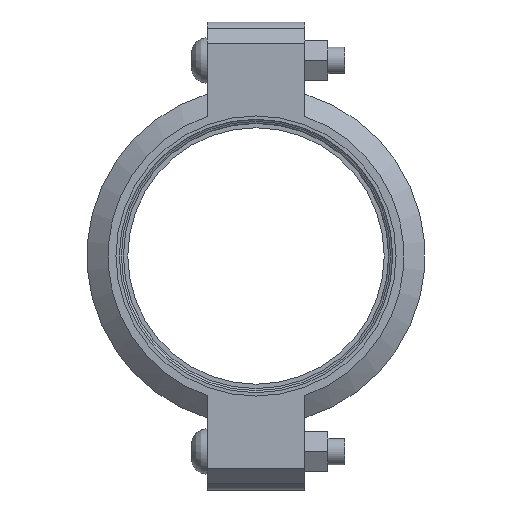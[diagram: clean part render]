
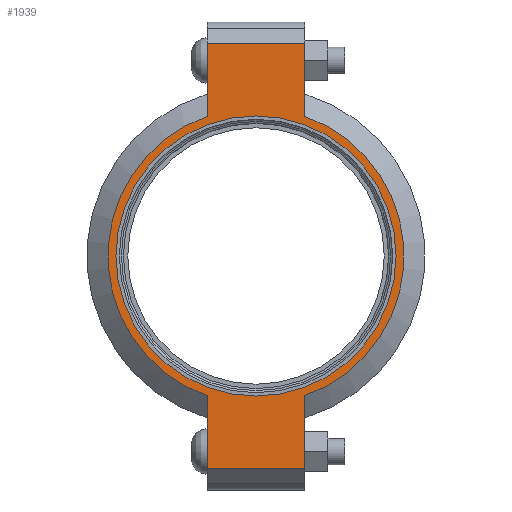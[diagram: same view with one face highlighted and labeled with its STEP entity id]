
A CAD part, left-side view. The second image highlights one B-rep face of the part: STEP entity #1939.
In plain terms, the highlighted planar face has unit normal (-1, 0, 0) as drawn and (0, 0, 1) by its records, which use the part's own axes.
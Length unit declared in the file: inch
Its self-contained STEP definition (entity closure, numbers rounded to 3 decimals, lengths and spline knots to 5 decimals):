
#128=LINE('',#3437,#225);
#136=LINE('',#3473,#233);
#143=LINE('',#3494,#240);
#152=LINE('',#3526,#249);
#153=LINE('',#3530,#250);
#154=LINE('',#3532,#251);
#225=VECTOR('',#2805,0.3937);
#233=VECTOR('',#2821,0.3937);
#240=VECTOR('',#2840,0.3937);
#249=VECTOR('',#2865,0.3937);
#250=VECTOR('',#2870,0.3937);
#251=VECTOR('',#2871,0.3937);
#307=FACE_BOUND('',#557,.T.);
#351=PLANE('',#2278);
#439=FACE_OUTER_BOUND('',#556,.T.);
#556=EDGE_LOOP('',(#1660,#1661,#1662,#1663,#1664,#1665,#1666,#1667));
#557=EDGE_LOOP('',(#1668));
#729=CIRCLE('',#2279,3.5);
#730=CIRCLE('',#2280,3.5);
#731=CIRCLE('',#2281,3.3125);
#893=VERTEX_POINT('',#3434);
#894=VERTEX_POINT('',#3436);
#905=VERTEX_POINT('',#3468);
#906=VERTEX_POINT('',#3472);
#913=VERTEX_POINT('',#3491);
#914=VERTEX_POINT('',#3493);
#924=VERTEX_POINT('',#3529);
#925=VERTEX_POINT('',#3531);
#926=VERTEX_POINT('',#3534);
#1138=EDGE_CURVE('',#894,#893,#128,.T.);
#1152=EDGE_CURVE('',#906,#905,#136,.T.);
#1162=EDGE_CURVE('',#914,#913,#143,.T.);
#1177=EDGE_CURVE('',#906,#893,#152,.T.);
#1178=EDGE_CURVE('',#905,#914,#729,.T.);
#1179=EDGE_CURVE('',#924,#913,#153,.T.);
#1180=EDGE_CURVE('',#924,#925,#154,.T.);
#1181=EDGE_CURVE('',#925,#894,#730,.T.);
#1182=EDGE_CURVE('',#926,#926,#731,.T.);
#1660=ORIENTED_EDGE('',*,*,#1177,.F.);
#1661=ORIENTED_EDGE('',*,*,#1152,.T.);
#1662=ORIENTED_EDGE('',*,*,#1178,.T.);
#1663=ORIENTED_EDGE('',*,*,#1162,.T.);
#1664=ORIENTED_EDGE('',*,*,#1179,.F.);
#1665=ORIENTED_EDGE('',*,*,#1180,.T.);
#1666=ORIENTED_EDGE('',*,*,#1181,.T.);
#1667=ORIENTED_EDGE('',*,*,#1138,.T.);
#1668=ORIENTED_EDGE('',*,*,#1182,.T.);
#1939=ADVANCED_FACE('',(#439,#307),#351,.T.);
#2278=AXIS2_PLACEMENT_3D('',#3527,#2866,#2867);
#2279=AXIS2_PLACEMENT_3D('',#3528,#2868,#2869);
#2280=AXIS2_PLACEMENT_3D('',#3533,#2872,#2873);
#2281=AXIS2_PLACEMENT_3D('',#3535,#2874,#2875);
#2805=DIRECTION('',(1.,0.,0.));
#2821=DIRECTION('',(-1.,0.,0.));
#2840=DIRECTION('',(-1.,0.,0.));
#2865=DIRECTION('',(0.,-1.,0.));
#2866=DIRECTION('center_axis',(0.,0.,1.));
#2867=DIRECTION('ref_axis',(-1.,0.,0.));
#2868=DIRECTION('center_axis',(0.,0.,1.));
#2869=DIRECTION('ref_axis',(1.,0.,0.));
#2870=DIRECTION('',(0.,1.,0.));
#2871=DIRECTION('',(1.,0.,0.));
#2872=DIRECTION('center_axis',(0.,0.,1.));
#2873=DIRECTION('ref_axis',(1.,0.,0.));
#2874=DIRECTION('center_axis',(0.,0.,-1.));
#2875=DIRECTION('ref_axis',(1.,0.,0.));
#3434=CARTESIAN_POINT('',(5.035,-1.156,1.065));
#3436=CARTESIAN_POINT('',(3.30358,-1.156,1.065));
#3437=CARTESIAN_POINT('',(5.535,-1.156,1.065));
#3468=CARTESIAN_POINT('',(3.30358,1.156,1.065));
#3472=CARTESIAN_POINT('',(5.035,1.156,1.065));
#3473=CARTESIAN_POINT('',(-5.535,1.156,1.065));
#3491=CARTESIAN_POINT('',(-5.035,1.156,1.065));
#3493=CARTESIAN_POINT('',(-3.30358,1.156,1.065));
#3494=CARTESIAN_POINT('',(-5.535,1.156,1.065));
#3526=CARTESIAN_POINT('',(5.035,-0.578,1.065));
#3527=CARTESIAN_POINT('Origin',(0.,0.,
1.065));
#3528=CARTESIAN_POINT('Origin',(0.,0.,1.065));
#3529=CARTESIAN_POINT('',(-5.035,-1.156,1.065));
#3530=CARTESIAN_POINT('',(-5.035,0.578,1.065));
#3531=CARTESIAN_POINT('',(-3.30358,-1.156,1.065));
#3532=CARTESIAN_POINT('',(5.535,-1.156,1.065));
#3533=CARTESIAN_POINT('Origin',(0.,0.,1.065));
#3534=CARTESIAN_POINT('',(-3.3125,0.,1.065));
#3535=CARTESIAN_POINT('Origin',(0.,0.,1.065));
